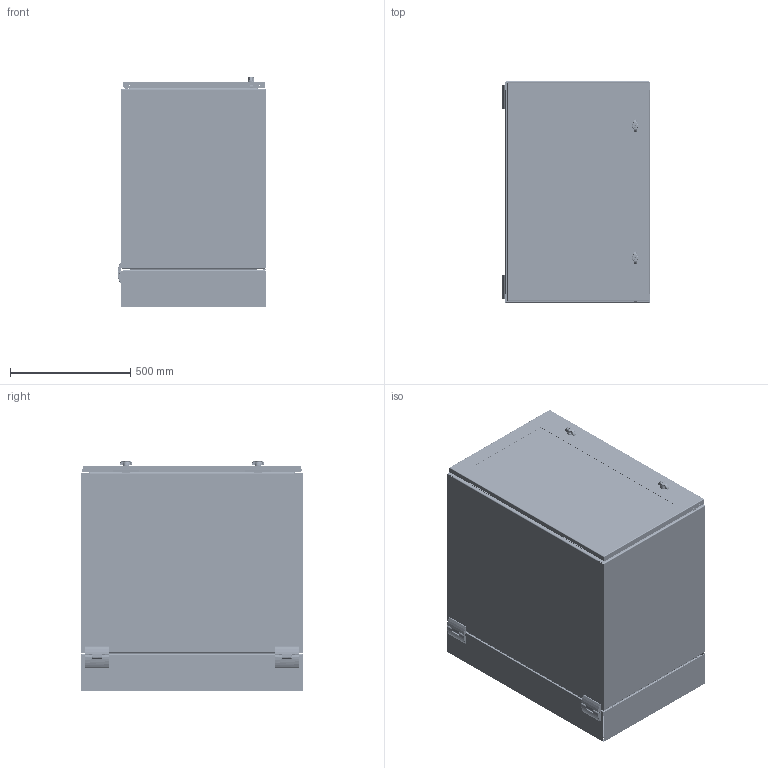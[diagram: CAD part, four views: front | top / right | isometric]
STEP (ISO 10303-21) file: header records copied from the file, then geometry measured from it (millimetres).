
FILE_DESCRIPTION (( 'STEP AP203' ), '1' );
FILE_NAME ('29117.step', '2015-02-10T06:38:00', ( '' ), ( '' ), 'SwSTEP 2.0', 'SolidWorks 2010', '' );
FILE_SCHEMA (( 'CONFIG_CONTROL_DESIGN' ));
Products named in the file (52): 29117; 89078330; 89078329; 89060190; 89060191; 89078352; 89071699_Installed Config; 89113947; 89113946; 89113945; 89113937; 89076786_89076786; 89076784_Compressed wdw gasket; 89076783_89076783; 60127101_60127101; 60100041_60100041; 87931527_87931527; 87931368_SLEEVE; 99401225; 89076875; 89076788_Compressed; 89071927_FOR 16GA; 99407418; 87794350_87794350; 87556214; 87922656; 64138001; 89113746; 89066980; 89066979_WITH STAKE; 89091800; 89066978; 89066977_AS REAMED; 87540581; 87790199; 89090302; 89090300; 89090299_87790201; 60127135_installed position SS; 87543196_Installed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
Assembly tree (136 placements, depth 5):
  29117
    89066980  x2
      87540581
      89091800
      89066979_WITH STAKE
    89060213  x2
    89072123_87931339  x2
    89070550  x2
      89070549
      89056327
    89103319  x2
    89078330
      89060190  x2
      89071699_Installed Config  x6
      89060191  x2
      60100041_60100041
        87931527_87931527
        87931368_SLEEVE
      89078329
      89078352
    89090302  x2
      60127199_60127199
      56906712_56906712
      89090300
        89090299_87790201
        60127135_installed position SS  x2
        87543196_Installed  x2
    89060212  x2
    89060606_89060606  x2
    89076786_89076786
      89071927_FOR 16GA  x2
      87922656  x12
      99407418  x2
      64138001  x2
      89076784_Compressed wdw gasket
        99401225  x12
        60100041_60100041
          87931527_87931527
          87931368_SLEEVE
        89076783_89076783
        89076788_Compressed
        60127101_60127101  x2
        89076875
      87556214  x6
      87794350_87794350
    89113746  x2
    89066978  x2
      89066977_AS REAMED
      87540581
    87790199  x2
    89060214  x2
    89114049_89071543  x2
    89113947
      99401225  x24
      89113937  x2
      60100041_60100041  x2
        87931527_87931527
        87931368_SLEEVE
      89113946
      89113945
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Bounding box: 619.48 x 922 x 960.23 mm (x, y, z)
Volume: 10575621.8 mm3; surface area: 9973991.6 mm2
Topology: 140 solids, 160 shells, 8066 faces, 19930 edges, 12244 vertices
Faces by surface type: plane 3670, cylinder 2396, bspline 896, cone 660, torus 336, sphere 108
Entity records: 156871 total; most frequent: CARTESIAN_POINT 66864, ORIENTED_EDGE 17616, DIRECTION 16448, EDGE_CURVE 8808, AXIS2_PLACEMENT_3D 5880, VERTEX_POINT 5439, VECTOR 4688, LINE 4688
